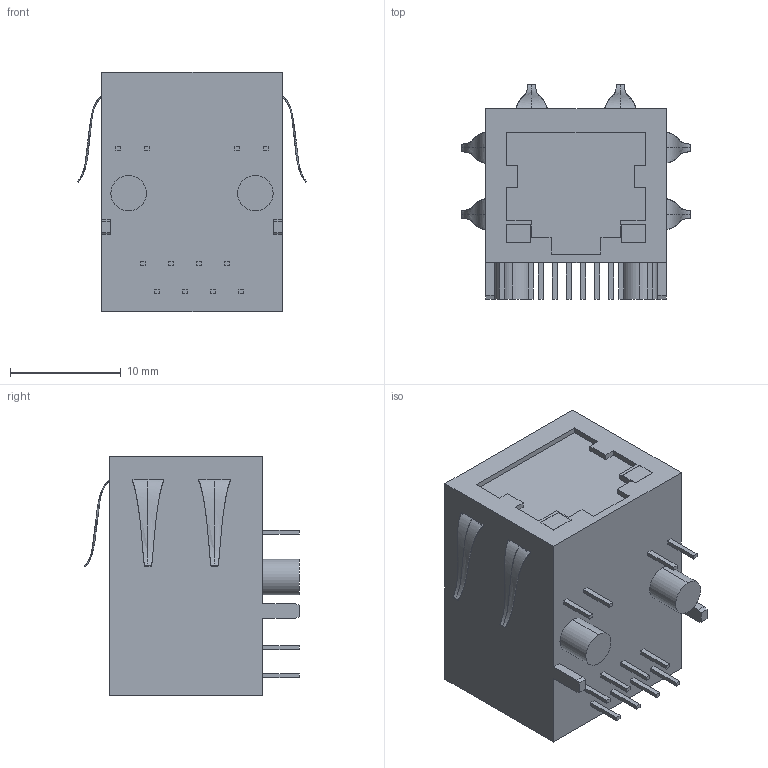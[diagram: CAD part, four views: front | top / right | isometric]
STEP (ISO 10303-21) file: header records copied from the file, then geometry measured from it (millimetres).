
FILE_DESCRIPTION (( 'STEP AP214' ), '1' );
FILE_NAME ('ARJ11B-MBSAO-A-B-ELU2.STEP', '2021-11-13T05:46:15', ( '' ), ( '' ), 'SwSTEP 2.0', 'SolidWorks 2017', '' );
FILE_SCHEMA (( 'AUTOMOTIVE_DESIGN' ));
Length unit declared in the file: millimetre
Products named in the file (1): ARJ11B-MBSAO-A-B-ELU2
Bounding box: 20.65 x 19.34 x 21.59 mm (x, y, z)
Volume: 4873.5 mm3; surface area: 2083.5 mm2
Topology: 1 solids, 1 shells, 249 faces, 675 edges, 466 vertices
Faces by surface type: plane 205, bspline 40, cylinder 4
Entity records: 14376 total; most frequent: CARTESIAN_POINT 5605, ORIENTED_EDGE 1350, DIRECTION 987, EDGE_CURVE 675, LINE 551, VECTOR 551, VERTEX_POINT 466, EDGE_LOOP 287
